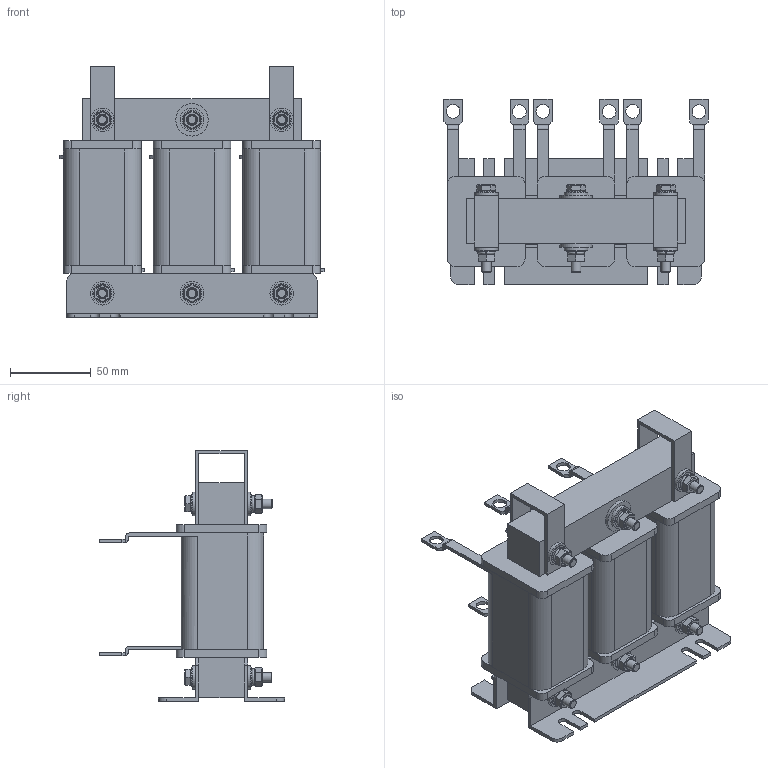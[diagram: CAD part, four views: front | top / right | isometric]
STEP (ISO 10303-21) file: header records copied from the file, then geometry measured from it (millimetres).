
FILE_DESCRIPTION(('STEP AP203'), '1');
FILE_NAME('栖闉罻 IMF-15_32-4', '', ('UNSPECIFIED'), ('UNSPECIFIED'), 'ASCON STEP Converter 1.6', 'ASCON Math Kernel', '');
FILE_SCHEMA(('CONFIG_CONTROL_DESIGN'));
Length unit declared in the file: millimetre
Products named in the file (13): IMF-15_32-4
Assembly tree (59 placements, depth 2):
  IMF-15_32-4
    IMF-15_32-4
    IMF-15_32-4  x2
    IMF-15_32-4  x6
    IMF-15_32-4  x3
    IMF-15_32-4
    IMF-15_32-4  x2
    IMF-15_32-4  x2
    IMF-15_32-4  x12
    IMF-15_32-4  x12
    IMF-15_32-4  x6
    IMF-15_32-4  x6
    IMF-15_32-4  x6
Bounding box: 163.5 x 114.5 x 155.2 mm (x, y, z)
Volume: 840570.2 mm3; surface area: 191616.5 mm2
Topology: 59 solids, 59 shells, 706 faces, 1584 edges, 1002 vertices
Faces by surface type: plane 514, cylinder 162, cone 18, torus 12
Full cylindrical faces by diameter (mm): 6 x54, 8.5 x6, 12 x12, 14.6 x12, 20 x2
Entity records: 7237 total; most frequent: CARTESIAN_POINT 1199, DIRECTION 970, ORIENTED_EDGE 810, EDGE_CURVE 405, AXIS2_PLACEMENT_3D 336, LINE 298, VECTOR 298, VERTEX_POINT 277
